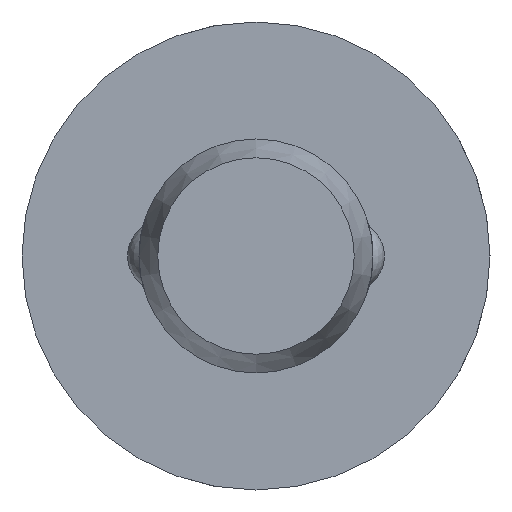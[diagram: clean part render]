
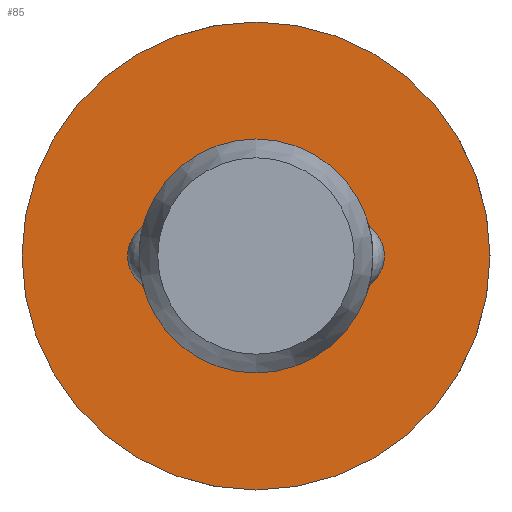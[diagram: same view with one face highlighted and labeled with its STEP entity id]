
A CAD part, left-side view. The second image highlights one B-rep face of the part: STEP entity #85.
In plain terms, the highlighted planar face has unit normal (-1, 0, 0).
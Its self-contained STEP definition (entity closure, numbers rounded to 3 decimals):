
#85 = ADVANCED_FACE( '', ( #131, #132 ), #133, .F. );
#131 = FACE_OUTER_BOUND( '', #204, .T. );
#132 = FACE_BOUND( '', #205, .T. );
#133 = PLANE( '', #206 );
#204 = EDGE_LOOP( '', ( #322 ) );
#205 = EDGE_LOOP( '', ( #323 ) );
#206 = AXIS2_PLACEMENT_3D( '', #324, #325, #326 );
#322 = ORIENTED_EDGE( '', *, *, #470, .F. );
#323 = ORIENTED_EDGE( '', *, *, #467, .T. );
#324 = CARTESIAN_POINT( '', ( 56., 2.5, 0. ) );
#325 = DIRECTION( '', ( 1., 0., 0. ) );
#326 = DIRECTION( '', ( 0., 0., -1. ) );
#467 = EDGE_CURVE( '', #541, #541, #542, .T. );
#470 = EDGE_CURVE( '', #547, #547, #548, .T. );
#541 = VERTEX_POINT( '', #749 );
#542 = CIRCLE( '', #750, 2.5 );
#547 = VERTEX_POINT( '', #801 );
#548 = CIRCLE( '', #802, 5. );
#749 = CARTESIAN_POINT( '', ( 56., 0., -2.5 ) );
#750 = AXIS2_PLACEMENT_3D( '', #881, #882, #883 );
#801 = CARTESIAN_POINT( '', ( 56., 0., -5. ) );
#802 = AXIS2_PLACEMENT_3D( '', #884, #885, #886 );
#881 = CARTESIAN_POINT( '', ( 56., 0., 0. ) );
#882 = DIRECTION( '', ( 1., 0., 0. ) );
#883 = DIRECTION( '', ( 0., 0., -1. ) );
#884 = CARTESIAN_POINT( '', ( 56., 0., 0. ) );
#885 = DIRECTION( '', ( 1., 0., 0. ) );
#886 = DIRECTION( '', ( 0., 0., -1. ) );
